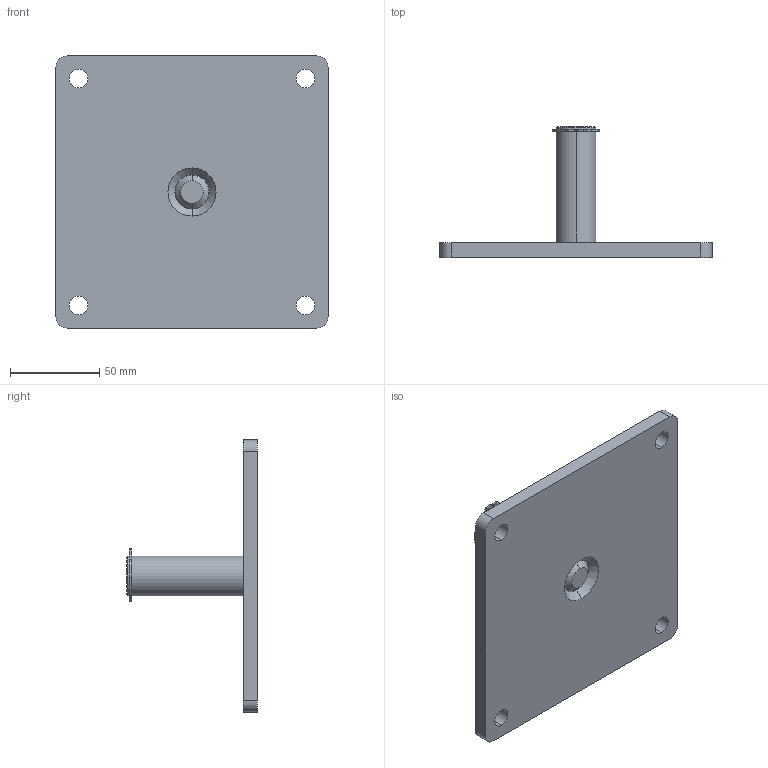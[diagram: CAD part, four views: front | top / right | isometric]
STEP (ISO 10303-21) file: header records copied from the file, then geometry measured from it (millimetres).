
FILE_DESCRIPTION (( 'STEP AP214' ), '1' );
FILE_NAME ('70-0106-00 REV AA, PIVOT PLATE.STEP', '2025-05-13T13:04:50', ( '' ), ( '' ), 'SwSTEP 2.0', 'SolidWorks 2025', '' );
FILE_SCHEMA (( 'AUTOMOTIVE_DESIGN' ));
Length unit declared in the file: inch
Products named in the file (4): 010-012-00, RETAINING RING, EXTERNAL, .875in SHAFT; 71-0193-RX REV AA, PIN, PIVOT PLATE; 70-0106-00 REV AA, PIVOT PLATE; 71-0122-RX REV AA, PLATE, PIVOT PLATE
Assembly tree (3 placements, depth 2):
  70-0106-00 REV AA, PIVOT PLATE
    71-0193-RX REV AA, PIN, PIVOT PLATE
    71-0122-RX REV AA, PLATE, PIVOT PLATE
    010-012-00, RETAINING RING, EXTERNAL, .875in SHAFT
Bounding box: 152.4 x 73.22 x 152.4 mm (x, y, z)
Volume: 205696.7 mm3; surface area: 57604.3 mm2
Topology: 3 solids, 3 shells, 65 faces, 160 edges, 104 vertices
Faces by surface type: cylinder 40, plane 17, cone 6, torus 2
Entity records: 2123 total; most frequent: DIRECTION 392, CARTESIAN_POINT 335, ORIENTED_EDGE 320, AXIS2_PLACEMENT_3D 161, EDGE_CURVE 160, VERTEX_POINT 104, CIRCLE 90, EDGE_LOOP 82
